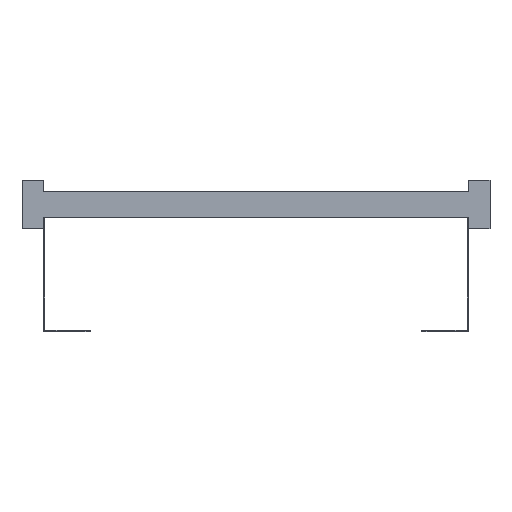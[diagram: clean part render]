
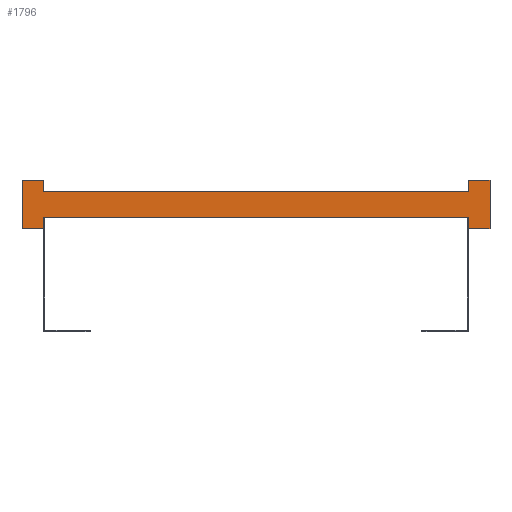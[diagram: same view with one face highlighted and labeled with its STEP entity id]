
A CAD part, front view. The second image highlights one B-rep face of the part: STEP entity #1796.
In plain terms, the highlighted planar face has unit normal (0, -1, 0).
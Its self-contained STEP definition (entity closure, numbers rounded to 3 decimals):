
#113=DIRECTION('',(0.,0.,1.));
#114=VECTOR('',#113,13.5);
#115=CARTESIAN_POINT('',(250.,0.,-28.5));
#116=LINE('',#115,#114);
#117=DIRECTION('',(0.,0.,-1.));
#118=VECTOR('',#117,13.5);
#119=CARTESIAN_POINT('',(-250.,0.,-15.));
#120=LINE('',#119,#118);
#121=DIRECTION('',(-1.,0.,0.));
#122=VECTOR('',#121,25.);
#123=CARTESIAN_POINT('',(-250.,0.,-28.5));
#124=LINE('',#123,#122);
#125=DIRECTION('',(0.,0.,1.));
#126=VECTOR('',#125,57.);
#127=CARTESIAN_POINT('',(-275.,0.,-28.5));
#128=LINE('',#127,#126);
#129=DIRECTION('',(1.,0.,0.));
#130=VECTOR('',#129,25.);
#131=CARTESIAN_POINT('',(-275.,0.,28.5));
#132=LINE('',#131,#130);
#133=DIRECTION('',(0.,0.,-1.));
#134=VECTOR('',#133,13.5);
#135=CARTESIAN_POINT('',(-250.,0.,28.5));
#136=LINE('',#135,#134);
#137=DIRECTION('',(0.,0.,1.));
#138=VECTOR('',#137,13.5);
#139=CARTESIAN_POINT('',(250.,0.,15.));
#140=LINE('',#139,#138);
#141=DIRECTION('',(1.,0.,0.));
#142=VECTOR('',#141,25.);
#143=CARTESIAN_POINT('',(250.,0.,28.5));
#144=LINE('',#143,#142);
#145=DIRECTION('',(0.,0.,-1.));
#146=VECTOR('',#145,57.);
#147=CARTESIAN_POINT('',(275.,0.,28.5));
#148=LINE('',#147,#146);
#149=DIRECTION('',(-1.,0.,0.));
#150=VECTOR('',#149,25.);
#151=CARTESIAN_POINT('',(275.,0.,-28.5));
#152=LINE('',#151,#150);
#1345=DIRECTION('',(1.,0.,0.));
#1346=VECTOR('',#1345,500.);
#1347=CARTESIAN_POINT('',(-250.,0.,-15.));
#1348=LINE('',#1347,#1346);
#1357=DIRECTION('',(1.,0.,0.));
#1358=VECTOR('',#1357,500.);
#1359=CARTESIAN_POINT('',(-250.,0.,15.));
#1360=LINE('',#1359,#1358);
#1361=CARTESIAN_POINT('',(-275.,0.,28.5));
#1362=CARTESIAN_POINT('',(-250.,0.,28.5));
#1363=VERTEX_POINT('',#1361);
#1364=VERTEX_POINT('',#1362);
#1365=CARTESIAN_POINT('',(-250.,0.,-28.5));
#1366=CARTESIAN_POINT('',(-275.,0.,-28.5));
#1367=VERTEX_POINT('',#1365);
#1368=VERTEX_POINT('',#1366);
#1369=CARTESIAN_POINT('',(275.,0.,28.5));
#1370=CARTESIAN_POINT('',(275.,0.,-28.5));
#1371=VERTEX_POINT('',#1369);
#1372=VERTEX_POINT('',#1370);
#1373=CARTESIAN_POINT('',(250.,0.,-28.5));
#1374=VERTEX_POINT('',#1373);
#1375=CARTESIAN_POINT('',(250.,0.,28.5));
#1376=VERTEX_POINT('',#1375);
#1393=CARTESIAN_POINT('',(-250.,0.,-15.));
#1395=VERTEX_POINT('',#1393);
#1397=CARTESIAN_POINT('',(-250.,0.,15.));
#1399=VERTEX_POINT('',#1397);
#1401=CARTESIAN_POINT('',(250.,0.,-15.));
#1403=VERTEX_POINT('',#1401);
#1405=CARTESIAN_POINT('',(250.,0.,15.));
#1407=VERTEX_POINT('',#1405);
#1765=CARTESIAN_POINT('',(0.,0.,0.));
#1766=DIRECTION('',(0.,1.,0.));
#1767=DIRECTION('',(1.,0.,0.));
#1768=AXIS2_PLACEMENT_3D('',#1765,#1766,#1767);
#1769=PLANE('',#1768);
#1771=ORIENTED_EDGE('',*,*,#1770,.T.);
#1773=ORIENTED_EDGE('',*,*,#1772,.F.);
#1775=ORIENTED_EDGE('',*,*,#1774,.T.);
#1777=ORIENTED_EDGE('',*,*,#1776,.T.);
#1779=ORIENTED_EDGE('',*,*,#1778,.T.);
#1781=ORIENTED_EDGE('',*,*,#1780,.T.);
#1783=ORIENTED_EDGE('',*,*,#1782,.T.);
#1785=ORIENTED_EDGE('',*,*,#1784,.T.);
#1787=ORIENTED_EDGE('',*,*,#1786,.T.);
#1789=ORIENTED_EDGE('',*,*,#1788,.T.);
#1791=ORIENTED_EDGE('',*,*,#1790,.T.);
#1793=ORIENTED_EDGE('',*,*,#1792,.T.);
#1794=EDGE_LOOP('',(#1771,#1773,#1775,#1777,#1779,#1781,#1783,#1785,#1787,#1789,
#1791,#1793));
#1795=FACE_OUTER_BOUND('',#1794,.F.);
#1770=EDGE_CURVE('',#1374,#1403,#116,.T.);
#1772=EDGE_CURVE('',#1395,#1403,#1348,.T.);
#1774=EDGE_CURVE('',#1395,#1367,#120,.T.);
#1776=EDGE_CURVE('',#1367,#1368,#124,.T.);
#1778=EDGE_CURVE('',#1368,#1363,#128,.T.);
#1780=EDGE_CURVE('',#1363,#1364,#132,.T.);
#1782=EDGE_CURVE('',#1364,#1399,#136,.T.);
#1784=EDGE_CURVE('',#1399,#1407,#1360,.T.);
#1786=EDGE_CURVE('',#1407,#1376,#140,.T.);
#1788=EDGE_CURVE('',#1376,#1371,#144,.T.);
#1790=EDGE_CURVE('',#1371,#1372,#148,.T.);
#1792=EDGE_CURVE('',#1372,#1374,#152,.T.);
#1796=ADVANCED_FACE('',(#1795),#1769,.F.);
